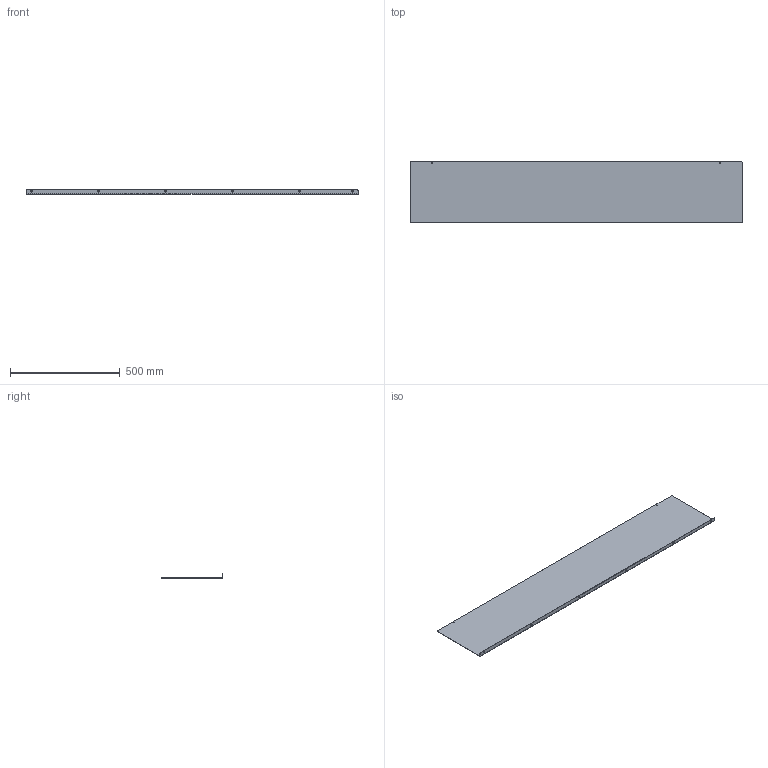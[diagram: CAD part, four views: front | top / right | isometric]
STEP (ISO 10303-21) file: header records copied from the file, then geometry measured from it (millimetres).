
FILE_DESCRIPTION((''),'2;1');
FILE_NAME('C:\Vault_Workspace\Inventor_Dwg\Inv-1\1100BA\WEBSITE\1100BA12060.stp','2015-02-02T15:18:17',('MichaelA'),(''),'Autodesk Inventor 2012','Autodesk Inventor 2012','');
FILE_SCHEMA(('AUTOMOTIVE_DESIGN { 1 0 10303 214 1 1 1 1 }'));
Length unit declared in the file: inch
Products named in the file (1): 1100BA-MASTER
Bounding box: 1511.3 x 279.4 x 19.05 mm (x, y, z)
Volume: 625425.6 mm3; surface area: 900654.3 mm2
Topology: 1 solids, 1 shells, 26 faces, 64 edges, 40 vertices
Faces by surface type: cylinder 14, plane 12
Full cylindrical faces by diameter (mm): 4.496 x2, 7.137 x6
Entity records: 792 total; most frequent: DIRECTION 138, CARTESIAN_POINT 123, ORIENTED_EDGE 112, EDGE_CURVE 56, AXIS2_PLACEMENT_3D 55, EDGE_LOOP 50, VERTEX_POINT 40, CIRCLE 28
